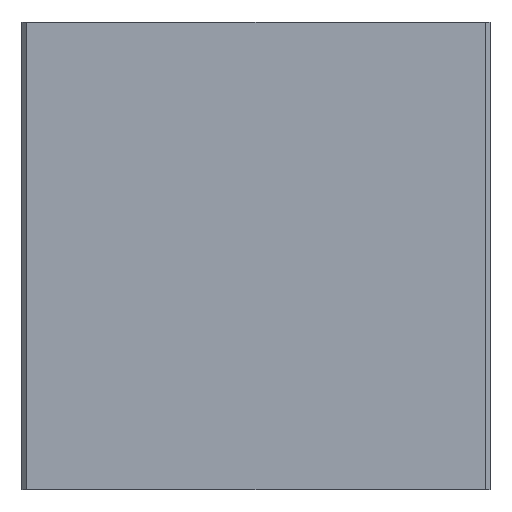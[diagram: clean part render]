
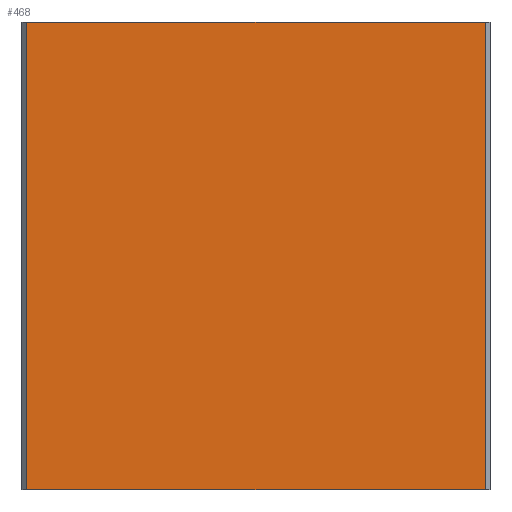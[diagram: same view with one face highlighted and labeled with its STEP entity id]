
A CAD part, front view. The second image highlights one B-rep face of the part: STEP entity #468.
In plain terms, the highlighted planar face has unit normal (0, -1, 0).
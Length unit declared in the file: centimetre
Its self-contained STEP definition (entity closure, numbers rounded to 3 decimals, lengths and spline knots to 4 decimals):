
#468=ADVANCED_FACE('',(#1145),#10539,.T.);
#1145=FACE_OUTER_BOUND('',#1841,.T.);
#1841=EDGE_LOOP('',(#3676,#3677,#3678,#3679));
#3676=ORIENTED_EDGE('',*,*,#6485,.T.);
#3677=ORIENTED_EDGE('',*,*,#6486,.T.);
#3678=ORIENTED_EDGE('',*,*,#6482,.F.);
#3679=ORIENTED_EDGE('',*,*,#6388,.T.);
#6388=EDGE_CURVE('',#9702,#9701,#7918,.T.);
#6482=EDGE_CURVE('',#9702,#9740,#7974,.T.);
#6485=EDGE_CURVE('',#9701,#9741,#7975,.T.);
#6486=EDGE_CURVE('',#9741,#9740,#7976,.T.);
#7918=B_SPLINE_CURVE_WITH_KNOTS('',1,(#16107,#16108),.UNSPECIFIED.,.F.,
 .F.,(2,2),(-98.,0.),.UNSPECIFIED.);
#7974=B_SPLINE_CURVE_WITH_KNOTS('',1,(#16401,#16402),.UNSPECIFIED.,.F.,
 .F.,(2,2),(10.,110.),.UNSPECIFIED.);
#7975=B_SPLINE_CURVE_WITH_KNOTS('',1,(#16409,#16410),.UNSPECIFIED.,.F.,
 .F.,(2,2),(60.,160.),.UNSPECIFIED.);
#7976=B_SPLINE_CURVE_WITH_KNOTS('',1,(#16411,#16412),.UNSPECIFIED.,.F.,
 .F.,(2,2),(0.,98.),.UNSPECIFIED.);
#9701=VERTEX_POINT('',#15507);
#9702=VERTEX_POINT('',#15508);
#9740=VERTEX_POINT('',#15546);
#9741=VERTEX_POINT('',#15547);
#10539=PLANE('',#11371);
#11371=AXIS2_PLACEMENT_3D('',#15350,#12004,$);
#12004=DIRECTION('',(0.,-1.,0.));
#15350=CARTESIAN_POINT('',(2813.5936,848.5649,-351.357));
#15507=CARTESIAN_POINT('',(2715.5836,848.5649,-351.367));
#15508=CARTESIAN_POINT('',(2813.5836,848.5649,-351.367));
#15546=CARTESIAN_POINT('',(2813.5836,848.5649,-451.367));
#15547=CARTESIAN_POINT('',(2715.5836,848.5649,-451.367));
#16107=CARTESIAN_POINT('',(2813.5836,848.5649,-351.367));
#16108=CARTESIAN_POINT('',(2715.5836,848.5649,-351.367));
#16401=CARTESIAN_POINT('',(2813.5836,848.5649,-351.367));
#16402=CARTESIAN_POINT('',(2813.5836,848.5649,-451.367));
#16409=CARTESIAN_POINT('',(2715.5836,848.5649,-351.367));
#16410=CARTESIAN_POINT('',(2715.5836,848.5649,-451.367));
#16411=CARTESIAN_POINT('',(2715.5836,848.5649,-451.367));
#16412=CARTESIAN_POINT('',(2813.5836,848.5649,-451.367));
